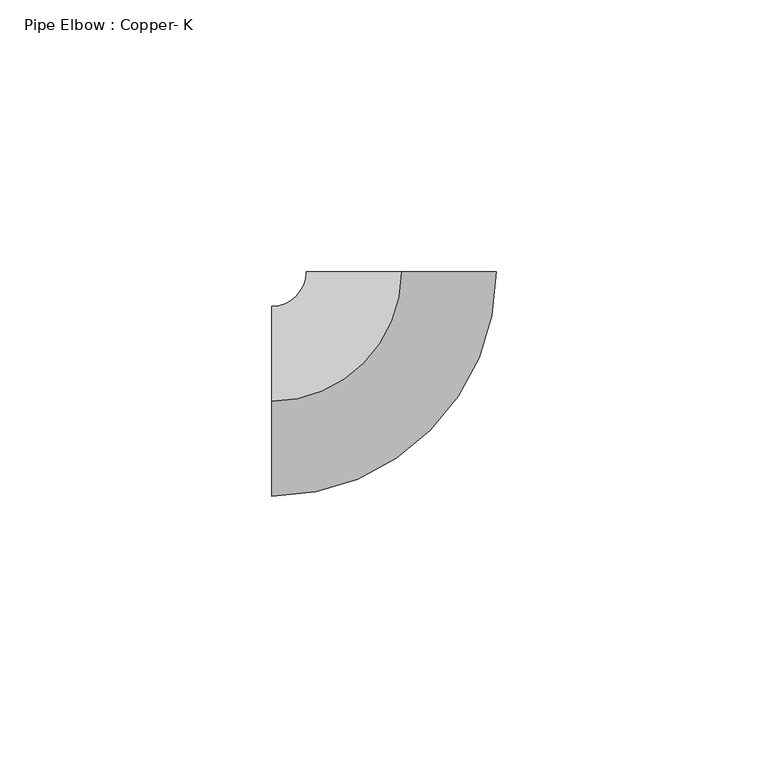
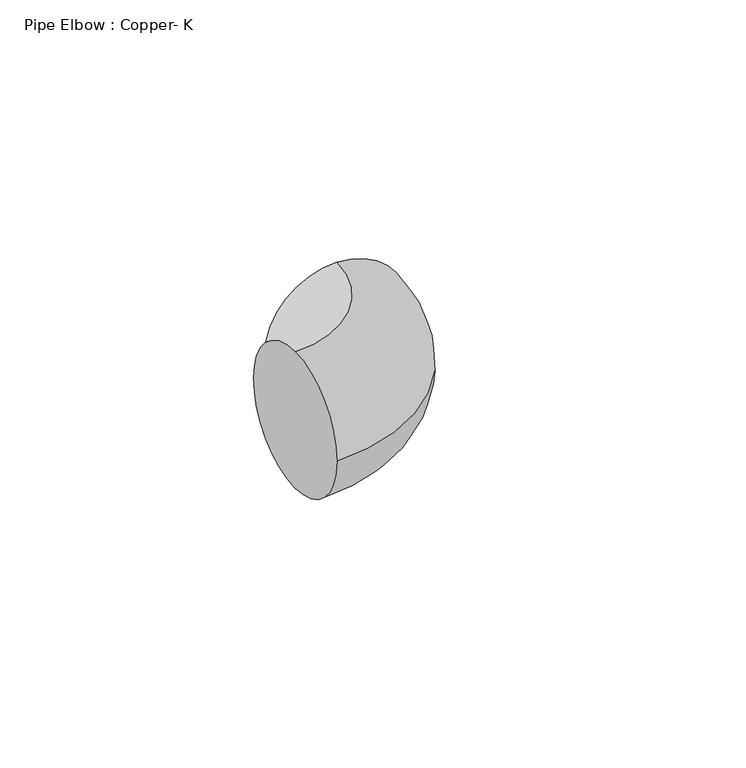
"""IFC4 building model written with IfcOpenShell, lengths in millimetres: pipe fitting geometry, Pipe Elbow : Copper- K."""

from ifc_helpers import new_model, si_unit, point, frame, origin, place, context, project, spatial, circle_curve, ellipse_curve, trimmed, source, transform, mapped, element, save
from ifc_brep_helpers import plane_surface, revolved_surface, advanced_brep


def pipe_elbow_copper_k_e010e987(model_context):
    return source(origin(), model_context, "Body", "AdvancedBrep", [
        advanced_brep(
        [(-23.8127434, 0.0, 17.4625), (-23.8127434, 17.4625, 0.0), (-23.8127434, 0.0, -17.4625), (-23.8127434, -17.4625, 0.0), (-0.0002434, 23.8127434, 17.4625), (17.4622566, 23.8129219, 0.0), (-0.0002434, 23.8127434, -17.4625), (-17.4627434, 23.8125649, 0.0)],
        [
            (0, 1, circle_curve(frame((-23.8127434, 0.0, 0.0), z_axis=(-1.0, 0.0, 0.0), x_axis=(0.0, 1.0, 0.0)), 17.4625)),
            (1, 2, circle_curve(frame((-23.8127434, 0.0, 0.0), z_axis=(-1.0, 0.0, 0.0), x_axis=(0.0, 1.0, 0.0)), 17.4625)),
            (2, 3, circle_curve(frame((-23.8127434, 0.0, 0.0), z_axis=(-1.0, 0.0, 0.0), x_axis=(0.0, 1.0, 0.0)), 17.4625)),
            (3, 0, circle_curve(frame((-23.8127434, 0.0, 0.0), z_axis=(-1.0, 0.0, 0.0), x_axis=(0.0, 1.0, 0.0)), 17.4625)),
            (4, 5, circle_curve(frame((-0.0002434, 23.8127434, 0.0), z_axis=(-1.022048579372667e-05, 0.9999999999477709, 0.0), x_axis=(-0.9999999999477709, -1.022048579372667e-05, 0.0)), 17.4625)),
            (5, 6, circle_curve(frame((-0.0002434, 23.8127434, 0.0), z_axis=(-1.022048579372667e-05, 0.9999999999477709, 0.0), x_axis=(-0.9999999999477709, -1.022048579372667e-05, 0.0)), 17.4625)),
            (6, 7, circle_curve(frame((-0.0002434, 23.8127434, 0.0), z_axis=(-1.022048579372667e-05, 0.9999999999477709, 0.0), x_axis=(-0.9999999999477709, -1.022048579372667e-05, 0.0)), 17.4625)),
            (7, 4, circle_curve(frame((-0.0002434, 23.8127434, 0.0), z_axis=(-1.022048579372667e-05, 0.9999999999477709, 0.0), x_axis=(-0.9999999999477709, -1.022048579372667e-05, 0.0)), 17.4625)),
            (7, 1, circle_curve(frame((-23.8127434, 23.8125, 0.0), z_axis=(0.0, 0.0, -1.0), x_axis=(0.0, -1.0, 0.0)), 6.35)),
            (0, 4, circle_curve(frame((-23.8127434, 23.8125, 17.4625), z_axis=(0.0, 0.0, 1.0), x_axis=(0.0, -1.0, 0.0)), 23.8125)),
            (6, 2, circle_curve(frame((-23.8127434, 23.8125, -17.4625), z_axis=(0.0, 0.0, -1.0), x_axis=(0.0, -1.0, 0.0)), 23.8125)),
            (5, 3, circle_curve(frame((-23.8127434, 23.8125, 0.0), z_axis=(0.0, 0.0, -1.0), x_axis=(0.0, -1.0, 0.0)), 41.275)),
        ],
        [
            plane_surface(frame((-23.8127434, 0.0, 0.0), z_axis=(-1.0, 0.0, 0.0), x_axis=(0.0, 0.0, 1.0))),
            plane_surface(frame((-0.0002434, 23.8127434, 0.0), z_axis=(-1.0220485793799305e-05, 0.9999999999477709, 0.0), x_axis=(0.0, 0.0, 1.0))),
            revolved_surface(trimmed(ellipse_curve(frame((-23.8127434, 0.0, 0.0), z_axis=(-1.0, 0.0, 0.0), x_axis=(0.0, 1.0, 0.0)), 17.4625, 17.4625), [point((-23.8127434, 0.0, 17.4625))], [point((-23.8127434, 17.4625, 0.0))], True, "CARTESIAN"), (-23.8127434, 23.8125, 0.0), (0.0, 0.0, 1.0)),
            revolved_surface(trimmed(ellipse_curve(frame((-23.8127434, 0.0, 0.0), z_axis=(-1.0, 0.0, 0.0), x_axis=(0.0, 1.0, 0.0)), 17.4625, 17.4625), [point((-23.8127434, 17.4625, 0.0))], [point((-23.8127434, 0.0, -17.4625))], True, "CARTESIAN"), (-23.8127434, 23.8125, 0.0), (0.0, 0.0, 1.0)),
            revolved_surface(trimmed(ellipse_curve(frame((-23.8127434, 0.0, 0.0), z_axis=(-1.0, 0.0, 0.0), x_axis=(0.0, 1.0, 0.0)), 17.4625, 17.4625), [point((-23.8127434, 0.0, -17.4625))], [point((-23.8127434, -17.4625, 0.0))], True, "CARTESIAN"), (-23.8127434, 23.8125, 0.0), (0.0, 0.0, 1.0)),
            revolved_surface(trimmed(ellipse_curve(frame((-23.8127434, 0.0, 0.0), z_axis=(-1.0, 0.0, 0.0), x_axis=(0.0, 1.0, 0.0)), 17.4625, 17.4625), [point((-23.8127434, -17.4625, 0.0))], [point((-23.8127434, 0.0, 17.4625))], True, "CARTESIAN"), (-23.8127434, 23.8125, 0.0), (0.0, 0.0, 1.0)),
        ],
        [
            (0, [[1, 2, 3, 4]]),
            (1, [[5, 6, 7, 8]]),
            (2, [[9, -1, 10, -8]]),
            (3, [[11, -2, -9, -7]]),
            (4, [[12, -3, -11, -6]]),
            (5, [[-10, -4, -12, -5]]),
        ],
    ),
        advanced_brep(
        [(-23.8127434, 0.0, 17.4625), (-23.8127434, 17.4625, 0.0), (-23.8127434, 0.0, -17.4625), (-23.8127434, -17.4625, 0.0), (-0.0002434, 23.8127434, 17.4625), (17.4622566, 23.8129219, 0.0), (-0.0002434, 23.8127434, -17.4625), (-17.4627434, 23.8125649, 0.0)],
        [
            (0, 1, circle_curve(frame((-23.8127434, 0.0, 0.0), z_axis=(-1.0, 0.0, 0.0), x_axis=(0.0, 1.0, 0.0)), 17.4625)),
            (1, 2, circle_curve(frame((-23.8127434, 0.0, 0.0), z_axis=(-1.0, 0.0, 0.0), x_axis=(0.0, 1.0, 0.0)), 17.4625)),
            (2, 3, circle_curve(frame((-23.8127434, 0.0, 0.0), z_axis=(-1.0, 0.0, 0.0), x_axis=(0.0, 1.0, 0.0)), 17.4625)),
            (3, 0, circle_curve(frame((-23.8127434, 0.0, 0.0), z_axis=(-1.0, 0.0, 0.0), x_axis=(0.0, 1.0, 0.0)), 17.4625)),
            (4, 5, circle_curve(frame((-0.0002434, 23.8127434, 0.0), z_axis=(-1.022048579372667e-05, 0.9999999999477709, 0.0), x_axis=(-0.9999999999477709, -1.022048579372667e-05, 0.0)), 17.4625)),
            (5, 6, circle_curve(frame((-0.0002434, 23.8127434, 0.0), z_axis=(-1.022048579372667e-05, 0.9999999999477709, 0.0), x_axis=(-0.9999999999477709, -1.022048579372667e-05, 0.0)), 17.4625)),
            (6, 7, circle_curve(frame((-0.0002434, 23.8127434, 0.0), z_axis=(-1.022048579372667e-05, 0.9999999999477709, 0.0), x_axis=(-0.9999999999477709, -1.022048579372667e-05, 0.0)), 17.4625)),
            (7, 4, circle_curve(frame((-0.0002434, 23.8127434, 0.0), z_axis=(-1.022048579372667e-05, 0.9999999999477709, 0.0), x_axis=(-0.9999999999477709, -1.022048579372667e-05, 0.0)), 17.4625)),
            (7, 1, circle_curve(frame((-23.8127434, 23.8125, 0.0), z_axis=(0.0, 0.0, -1.0), x_axis=(0.0, -1.0, 0.0)), 6.35)),
            (0, 4, circle_curve(frame((-23.8127434, 23.8125, 17.4625), z_axis=(0.0, 0.0, 1.0), x_axis=(0.0, -1.0, 0.0)), 23.8125)),
            (6, 2, circle_curve(frame((-23.8127434, 23.8125, -17.4625), z_axis=(0.0, 0.0, -1.0), x_axis=(0.0, -1.0, 0.0)), 23.8125)),
            (5, 3, circle_curve(frame((-23.8127434, 23.8125, 0.0), z_axis=(0.0, 0.0, -1.0), x_axis=(0.0, -1.0, 0.0)), 41.275)),
        ],
        [
            plane_surface(frame((-23.8127434, 0.0, 0.0), z_axis=(-1.0, 0.0, 0.0), x_axis=(0.0, 0.0, 1.0))),
            plane_surface(frame((-0.0002434, 23.8127434, 0.0), z_axis=(-1.0220485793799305e-05, 0.9999999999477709, 0.0), x_axis=(0.0, 0.0, 1.0))),
            revolved_surface(trimmed(ellipse_curve(frame((-23.8127434, 0.0, 0.0), z_axis=(-1.0, 0.0, 0.0), x_axis=(0.0, 1.0, 0.0)), 17.4625, 17.4625), [point((-23.8127434, 0.0, 17.4625))], [point((-23.8127434, 17.4625, 0.0))], True, "CARTESIAN"), (-23.8127434, 23.8125, 0.0), (0.0, 0.0, 1.0)),
            revolved_surface(trimmed(ellipse_curve(frame((-23.8127434, 0.0, 0.0), z_axis=(-1.0, 0.0, 0.0), x_axis=(0.0, 1.0, 0.0)), 17.4625, 17.4625), [point((-23.8127434, 17.4625, 0.0))], [point((-23.8127434, 0.0, -17.4625))], True, "CARTESIAN"), (-23.8127434, 23.8125, 0.0), (0.0, 0.0, 1.0)),
            revolved_surface(trimmed(ellipse_curve(frame((-23.8127434, 0.0, 0.0), z_axis=(-1.0, 0.0, 0.0), x_axis=(0.0, 1.0, 0.0)), 17.4625, 17.4625), [point((-23.8127434, 0.0, -17.4625))], [point((-23.8127434, -17.4625, 0.0))], True, "CARTESIAN"), (-23.8127434, 23.8125, 0.0), (0.0, 0.0, 1.0)),
            revolved_surface(trimmed(ellipse_curve(frame((-23.8127434, 0.0, 0.0), z_axis=(-1.0, 0.0, 0.0), x_axis=(0.0, 1.0, 0.0)), 17.4625, 17.4625), [point((-23.8127434, -17.4625, 0.0))], [point((-23.8127434, 0.0, 17.4625))], True, "CARTESIAN"), (-23.8127434, 23.8125, 0.0), (0.0, 0.0, 1.0)),
        ],
        [
            (0, [[1, 2, 3, 4]]),
            (1, [[5, 6, 7, 8]]),
            (2, [[9, -1, 10, -8]]),
            (3, [[11, -2, -9, -7]]),
            (4, [[12, -3, -11, -6]]),
            (5, [[-10, -4, -12, -5]]),
        ],
    ),
    ])


if __name__ == "__main__":
    model = new_model("IFC4")
    model_context = context("Model", 3, world=origin())
    ifc_project = project(units=[si_unit("LENGTHUNIT", "METRE", prefix="MILLI")], contexts=[model_context])
    site = spatial("IfcSite", under=ifc_project)
    building = spatial("IfcBuilding", under=site)
    placement = place(None, origin())
    pipe_elbow_copper_k_shape = pipe_elbow_copper_k_e010e987(model_context)
    element("IfcPipeFitting", 1, ObjectType="Pipe Elbow : Copper- K", at=placement, inside=building, context=model_context, shape_type="MappedRepresentation", body=[
        mapped(pipe_elbow_copper_k_shape, transform((0.0, 0.0, 0.0), x_axis=(1.0, 0.0, 0.0), y_axis=(0.0, 1.0, 0.0), z_axis=(0.0, 0.0, 1.0))),
    ])
    save(model, "model.ifc")
